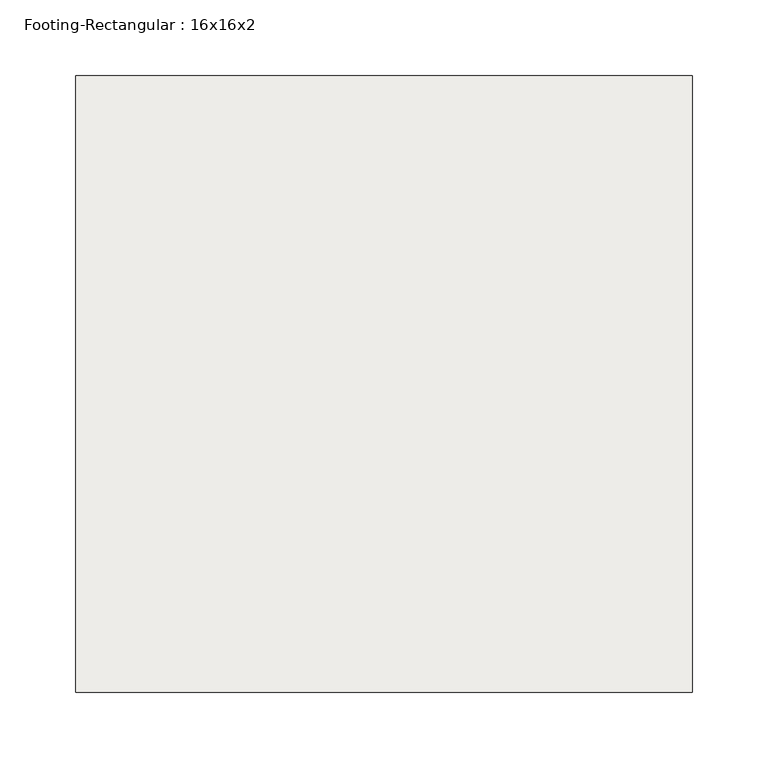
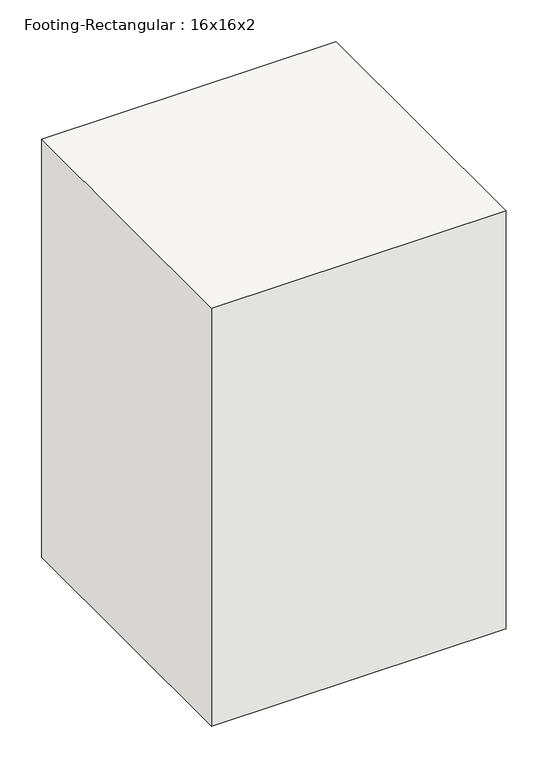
"""IFC4 building model written with IfcOpenShell, lengths in millimetres: slab geometry, Footing-Rectangular : 16x16x2."""

import ifcopenshell
import ifcopenshell.guid

model = None  # the IFC model being written
_history = None  # IfcOwnerHistory: only IFC2X3 demands one
_inside = {}  # id of a spatial element -> (the spatial element, [elements in it])
_under = {}  # id of a project, library or spatial element -> (it, [spatial elements below it])
_declared = {}  # id of a project -> (the project, [libraries it declares])
_typed = {}  # id of a type object -> (the type object, [elements of that type])
_made_of = {}  # id of a material, layer set ... -> (it, [elements and type objects made of it])


def new_model(schema):
    """Start an empty IFC model of exactly this schema.

    Asked for "IFC4X3", IfcOpenShell would pick the latest addendum, in which some entities
    have other attributes; the version numbers below select the first issue.
    IFC2X3 requires an IfcOwnerHistory on every rooted entity: one is made here for all.
    """
    global model, _history
    if schema == "IFC4X3":
        model = ifcopenshell.file(schema_version=(4, 3, 0, 0))
    else:
        model = ifcopenshell.file(schema=schema)
    _inside.clear()
    _under.clear()
    _declared.clear()
    _typed.clear()
    _made_of.clear()
    _history = None
    if model.schema == "IFC2X3":
        org = make("IfcOrganization", Name="unknown")
        user = make(
            "IfcPersonAndOrganization",
            ThePerson=make("IfcPerson", FamilyName="unknown"),
            TheOrganization=org,
        )
        app = make(
            "IfcApplication",
            ApplicationDeveloper=org,
            Version="unknown",
            ApplicationFullName="unknown",
            ApplicationIdentifier="unknown",
        )
        _history = make(
            "IfcOwnerHistory",
            OwningUser=user,
            OwningApplication=app,
            ChangeAction="ADDED",
            CreationDate=0,
        )
    return model


def make(cls, **values):
    """One entity of the class cls with the attributes given. An attribute that is None is left unset."""
    return model.create_entity(
        cls, **{name: value for name, value in values.items() if value is not None}
    )


def rooted(cls, **values):
    """An entity with a GlobalId (a new one), such as an element, a storey or a relation."""
    return make(cls, GlobalId=ifcopenshell.guid.new(), OwnerHistory=_history, **values)


def si_unit(unit_type, name, prefix=None):
    """IfcSIUnit, for example si_unit("LENGTHUNIT", "METRE", prefix="MILLI")."""
    return make("IfcSIUnit", UnitType=unit_type, Prefix=prefix, Name=name)


def assignment(units):
    """IfcUnitAssignment: the units of a project."""
    return None if units is None else make("IfcUnitAssignment", Units=units)


def point(xyz):
    """IfcCartesianPoint."""
    return None if xyz is None else make("IfcCartesianPoint", Coordinates=xyz)


def direction(xyz):
    """IfcDirection."""
    return None if xyz is None else make("IfcDirection", DirectionRatios=xyz)


def frame(location, z_axis=None, x_axis=None):
    """IfcAxis2Placement3D, a coordinate frame: its origin and axes. An axis left out is left unset."""
    return make(
        "IfcAxis2Placement3D",
        Location=point(location),
        Axis=direction(z_axis),
        RefDirection=direction(x_axis),
    )


def origin():
    """The frame at (0, 0, 0) with its axes left unset."""
    return frame((0.0, 0.0, 0.0))


def place(relative_to, where):
    """IfcLocalPlacement: puts the frame where relative to a parent placement (None: the world)."""
    return make(
        "IfcLocalPlacement", PlacementRelTo=relative_to, RelativePlacement=where
    )


def context(
    kind, dimensions, precision=None, world=None, true_north=None, identifier=None
):
    """IfcGeometricRepresentationContext, for example the 3D "Model" context."""
    return make(
        "IfcGeometricRepresentationContext",
        ContextIdentifier=identifier,
        ContextType=kind,
        CoordinateSpaceDimension=dimensions,
        Precision=precision,
        WorldCoordinateSystem=world,
        TrueNorth=true_north,
    )


def project(units=None, contexts=None):
    """IfcProject with its units and contexts."""
    return rooted(
        "IfcProject",
        Name="project",
        RepresentationContexts=contexts,
        UnitsInContext=assignment(units),
    )


def spatial(cls, under=None, at=None, **own):
    """A site, building, storey or space (cls), placed at a placement, below another one or the project."""
    s = rooted(cls, ObjectPlacement=at, **own)
    if under is not None:
        _under.setdefault(under.id(), (under, []))[1].append(s)
    return s


def polyline(points):
    """IfcPolyline through the points."""
    return make("IfcPolyline", Points=[point(p) for p in points])


def outline(outer, holes=None, kind="AREA"):
    """IfcArbitraryClosedProfileDef: a profile drawn as a closed curve; with holes, ...WithVoids."""
    if holes is None:
        return make("IfcArbitraryClosedProfileDef", ProfileType=kind, OuterCurve=outer)
    return make(
        "IfcArbitraryProfileDefWithVoids",
        ProfileType=kind,
        OuterCurve=outer,
        InnerCurves=holes,
    )


def extrude(swept, where, along, depth):
    """IfcExtrudedAreaSolid: the profile swept, set in the frame where, extruded along a direction by depth."""
    return make(
        "IfcExtrudedAreaSolid",
        SweptArea=swept,
        Position=where,
        ExtrudedDirection=direction(along),
        Depth=depth,
    )


def shape(context_of_items, identifier, shape_type, items):
    """IfcShapeRepresentation: the items that make up one representation, for example the "Body"."""
    return make(
        "IfcShapeRepresentation",
        ContextOfItems=context_of_items,
        RepresentationIdentifier=identifier,
        RepresentationType=shape_type,
        Items=items,
    )


def source(mapping_origin, context_of_items, identifier, shape_type, items):
    """IfcRepresentationMap: a shape defined once, which mapped items show again and again."""
    return make(
        "IfcRepresentationMap",
        MappingOrigin=mapping_origin,
        MappedRepresentation=shape(context_of_items, identifier, shape_type, items),
    )


def transform(
    local_origin,
    x_axis=None,
    y_axis=None,
    z_axis=None,
    scale=None,
    scale2=None,
    scale3=None,
    uniform=True,
):
    """IfcCartesianTransformationOperator3D, or its non-uniform kind. x_axis, y_axis, z_axis: its Axis1, 2, 3."""
    if uniform:
        return make(
            "IfcCartesianTransformationOperator3D",
            Axis1=direction(x_axis),
            Axis2=direction(y_axis),
            LocalOrigin=point(local_origin),
            Scale=scale,
            Axis3=direction(z_axis),
        )
    return make(
        "IfcCartesianTransformationOperator3DnonUniform",
        Axis1=direction(x_axis),
        Axis2=direction(y_axis),
        LocalOrigin=point(local_origin),
        Scale=scale,
        Axis3=direction(z_axis),
        Scale2=scale2,
        Scale3=scale3,
    )


def mapped(mapping_source, mapping_target):
    """IfcMappedItem: shows the shape of a source again, moved by a transform."""
    return make(
        "IfcMappedItem", MappingSource=mapping_source, MappingTarget=mapping_target
    )


def made_of(thing, what):
    """Note that an element or type object is made of a material, layer set ...; save() writes the relation."""
    if what is not None:
        _made_of.setdefault(what.id(), (what, []))[1].append(thing)
    return thing


def element(
    cls,
    number,
    at=None,
    inside=None,
    cuts=None,
    type_object=None,
    material=None,
    context=None,
    identifier="Body",
    shape_type=None,
    held_by="IfcProductDefinitionShape",
    body=None,
    shapes=None,
    **own,
):
    """One element of the class cls, such as IfcWall. Its Tag is "e" and its number.

    at: its placement. inside: the storey or other place that contains it. cuts: it is an
    opening in that element (IfcRelVoidsElement). A single representation is given by context,
    identifier, shape_type and body (its items); several are given by shapes. held_by: the class
    of the entity that holds the representations. save() writes the other relations.
    """
    e = rooted(cls, Tag="e%d" % number, ObjectPlacement=at, **own)
    if body is not None:
        shapes = [shape(context, identifier, shape_type, body)]
    if shapes is not None:
        e.Representation = make(held_by, Representations=shapes)
    if inside is not None:
        _inside.setdefault(inside.id(), (inside, []))[1].append(e)
    if cuts is not None:
        rooted(
            "IfcRelVoidsElement", RelatingBuildingElement=cuts, RelatedOpeningElement=e
        )
    if type_object is not None:
        _typed.setdefault(type_object.id(), (type_object, []))[1].append(e)
    return made_of(e, material)


def aggregate(whole, parts):
    """IfcRelAggregates: a whole, such as a stair, and the parts it consists of."""
    return rooted("IfcRelAggregates", RelatingObject=whole, RelatedObjects=parts)


def save(model, path):
    """Write the relations noted so far, then the file.

    IfcRelAggregates (storeys below a building ...), IfcRelContainedInSpatialStructure (elements
    in a storey), IfcRelDefinesByType, IfcRelAssociatesMaterial and IfcRelDeclares: one each for
    every whole, place, type object, material and project.
    """
    for whole, parts in _under.values():
        aggregate(whole, parts)
    for where, things in _inside.values():
        rooted(
            "IfcRelContainedInSpatialStructure",
            RelatedElements=things,
            RelatingStructure=where,
        )
    for kind, things in _typed.values():
        rooted("IfcRelDefinesByType", RelatedObjects=things, RelatingType=kind)
    for what, things in _made_of.values():
        rooted("IfcRelAssociatesMaterial", RelatedObjects=things, RelatingMaterial=what)
    for by, libraries in _declared.values():
        rooted("IfcRelDeclares", RelatingContext=by, RelatedDefinitions=libraries)
    model.write(path)


def footing_rectangular_16x16x2_31c1ccfd(model_context):
    return source(origin(), model_context, "Body", "SweptSolid", [
        extrude(outline(polyline([(203.2, 203.2), (203.2, -203.2), (-203.2, -203.2), (-203.2, 203.2), (203.2, 203.2)])), frame((0.0, 0.0, -609.6), z_axis=(0.0, 0.0, 1.0), x_axis=(1.0, 0.0, 0.0)), (0.0, 0.0, 1.0), 609.6),
    ])


if __name__ == "__main__":
    model = new_model("IFC4")
    model_context = context("Model", 3, world=origin())
    ifc_project = project(units=[si_unit("LENGTHUNIT", "METRE", prefix="MILLI")], contexts=[model_context])
    site = spatial("IfcSite", under=ifc_project)
    building = spatial("IfcBuilding", under=site)
    placement = place(None, origin())
    footing_rectangular_16x16x2_shape = footing_rectangular_16x16x2_31c1ccfd(model_context)
    element("IfcSlab", 1, ObjectType="Footing-Rectangular : 16x16x2", at=placement, inside=building, context=model_context, shape_type="MappedRepresentation", body=[
        mapped(footing_rectangular_16x16x2_shape, transform((0.0, 0.0, 0.0), x_axis=(1.0, 0.0, 0.0), y_axis=(0.0, 1.0, 0.0), z_axis=(0.0, 0.0, 1.0))),
    ])
    save(model, "model.ifc")
